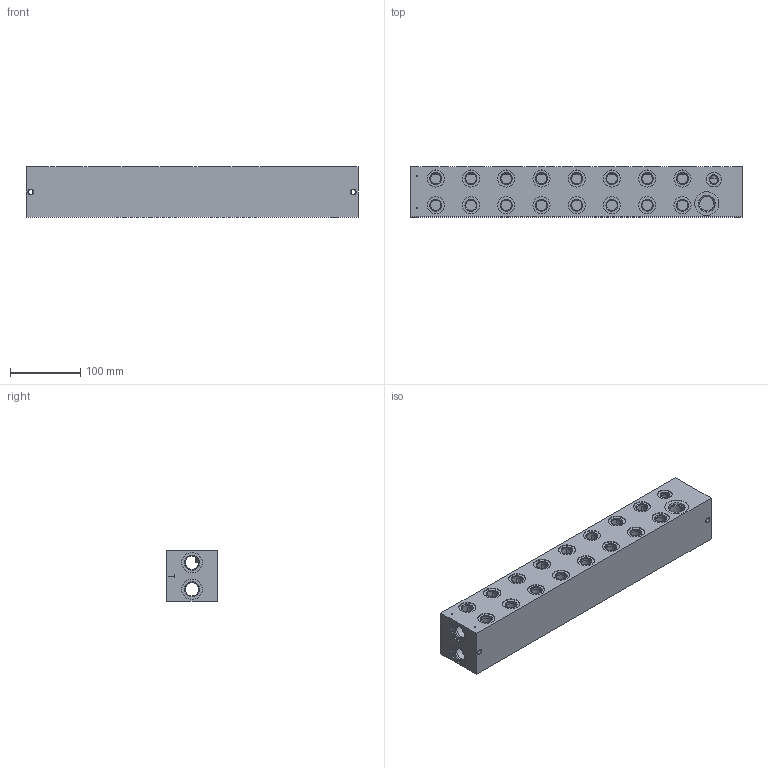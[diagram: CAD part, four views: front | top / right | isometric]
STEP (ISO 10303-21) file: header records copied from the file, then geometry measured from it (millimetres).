
FILE_DESCRIPTION((''),'2;1');
FILE_NAME('27565000','2015-11-27T',('Ahcz.brigadnik05'),(''),'PRO/ENGINEER BY PARAMETRIC TECHNOLOGY CORPORATION, 2015110','PRO/ENGINEER BY PARAMETRIC TECHNOLOGY CORPORATION, 2015110','');
FILE_SCHEMA(('AUTOMOTIVE_DESIGN { 1 0 10303 214 1 1 1 1 }'));
Length unit declared in the file: millimetre
Products named in the file (1): 27565000
Bounding box: 471 x 71 x 71 mm (x, y, z)
Volume: 766036.3 mm3; surface area: 291362 mm2
Topology: 1 solids, 62 shells, 531 faces, 2082 edges, 2069 vertices
Faces by surface type: cylinder 367, plane 100, cone 64
Entity records: 30642 total; most frequent: CARTESIAN_POINT 6411, DIRECTION 3861, ORIENTED_EDGE 2634, PRESENTATION_STYLE_ASSIGNMENT 2206, STYLED_ITEM 2206, CURVE_STYLE 2138, EDGE_CURVE 1439, AXIS2_PLACEMENT_3D 1369
